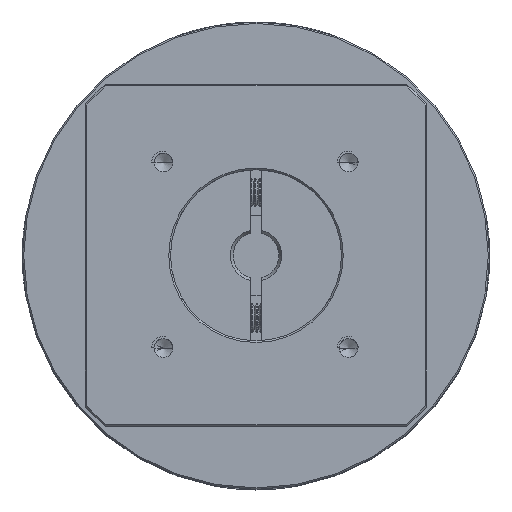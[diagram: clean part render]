
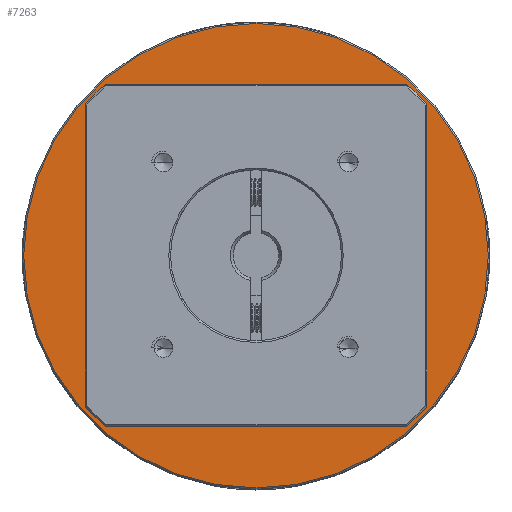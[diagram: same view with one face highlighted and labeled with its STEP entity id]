
A CAD part, top view. The second image highlights one B-rep face of the part: STEP entity #7263.
In plain terms, the highlighted planar face has unit normal (0, 0, 1).
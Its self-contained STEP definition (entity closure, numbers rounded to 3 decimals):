
#7263 = ADVANCED_FACE ( 'NONE', ( #36696, #82428 ), #60696, .T. ) ;
#7417 = VERTEX_POINT ( 'NONE', #53120 ) ;
#11450 = DIRECTION ( 'NONE',  ( 0., 0., -1. ) ) ;
#18392 = EDGE_LOOP ( 'NONE', ( #30965, #117311 ) ) ;
#20518 = CARTESIAN_POINT ( 'NONE',  ( -33.822, 16.368, -29.622 ) ) ;
#22989 = CIRCLE ( 'NONE', #82238, 40.75 ) ;
#25568 = EDGE_LOOP ( 'NONE', ( #89881, #64138 ) ) ;
#30852 = VERTEX_POINT ( 'NONE', #20518 ) ;
#30965 = ORIENTED_EDGE ( 'NONE', *, *, #96395, .F. ) ;
#33067 = EDGE_CURVE ( 'NONE', #45293, #30852, #71103, .T. ) ;
#34534 = CIRCLE ( 'NONE', #111463, 30. ) ;
#36696 = FACE_OUTER_BOUND ( 'NONE', #18392, .T. ) ;
#42708 = DIRECTION ( 'NONE',  ( 0., 0., 1. ) ) ;
#44880 = EDGE_CURVE ( 'NONE', #30852, #45293, #34534, .T. ) ;
#45293 = VERTEX_POINT ( 'NONE', #55924 ) ;
#52102 = DIRECTION ( 'NONE',  ( 0., 0., -1. ) ) ;
#53035 = DIRECTION ( 'NONE',  ( 0., 0., -1. ) ) ;
#53120 = CARTESIAN_POINT ( 'NONE',  ( -63.822, 57.118, -29.622 ) ) ;
#53659 = CARTESIAN_POINT ( 'NONE',  ( -63.822, 16.368, -29.622 ) ) ;
#55924 = CARTESIAN_POINT ( 'NONE',  ( -93.822, 16.368, -29.622 ) ) ;
#56252 = AXIS2_PLACEMENT_3D ( 'NONE', #66484, #11450, #75625 ) ;
#59903 = AXIS2_PLACEMENT_3D ( 'NONE', #107625, #53035, #116784 ) ;
#60460 = EDGE_CURVE ( 'NONE', #104528, #7417, #22989, .T. ) ;
#60696 = PLANE ( 'NONE',  #110532 ) ;
#62839 = DIRECTION ( 'NONE',  ( -1., 0., 0. ) ) ;
#64138 = ORIENTED_EDGE ( 'NONE', *, *, #44880, .T. ) ;
#66484 = CARTESIAN_POINT ( 'NONE',  ( -63.822, 16.368, -29.622 ) ) ;
#70844 = CIRCLE ( 'NONE', #56252, 40.75 ) ;
#71103 = CIRCLE ( 'NONE', #59903, 30. ) ;
#75625 = DIRECTION ( 'NONE',  ( 0., 1., 0. ) ) ;
#82238 = AXIS2_PLACEMENT_3D ( 'NONE', #106714, #52102, #115872 ) ;
#82428 = FACE_BOUND ( 'NONE', #25568, .T. ) ;
#89881 = ORIENTED_EDGE ( 'NONE', *, *, #33067, .T. ) ;
#96395 = EDGE_CURVE ( 'NONE', #7417, #104528, #70844, .T. ) ;
#97305 = CARTESIAN_POINT ( 'NONE',  ( -63.822, 16.368, -29.622 ) ) ;
#104528 = VERTEX_POINT ( 'NONE', #109149 ) ;
#106522 = DIRECTION ( 'NONE',  ( 1., 0., 0. ) ) ;
#106714 = CARTESIAN_POINT ( 'NONE',  ( -63.822, 16.368, -29.622 ) ) ;
#107625 = CARTESIAN_POINT ( 'NONE',  ( -63.822, 16.368, -29.622 ) ) ;
#109149 = CARTESIAN_POINT ( 'NONE',  ( -63.822, -24.382, -29.622 ) ) ;
#110532 = AXIS2_PLACEMENT_3D ( 'NONE', #97305, #42708, #106522 ) ;
#111463 = AXIS2_PLACEMENT_3D ( 'NONE', #53659, #117417, #62839 ) ;
#115872 = DIRECTION ( 'NONE',  ( 0., 1., 0. ) ) ;
#116784 = DIRECTION ( 'NONE',  ( -1., 0., 0. ) ) ;
#117311 = ORIENTED_EDGE ( 'NONE', *, *, #60460, .F. ) ;
#117417 = DIRECTION ( 'NONE',  ( 0., 0., -1. ) ) ;
